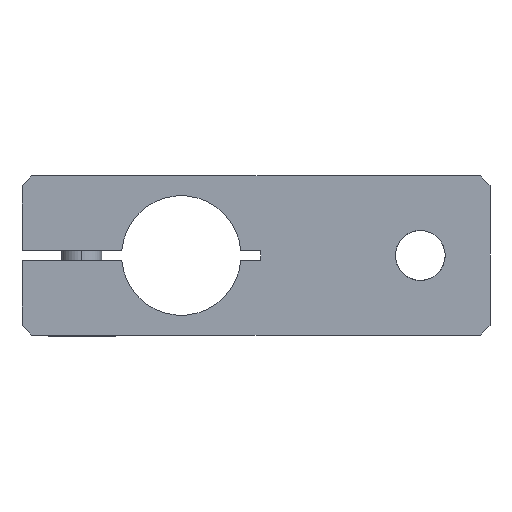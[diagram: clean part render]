
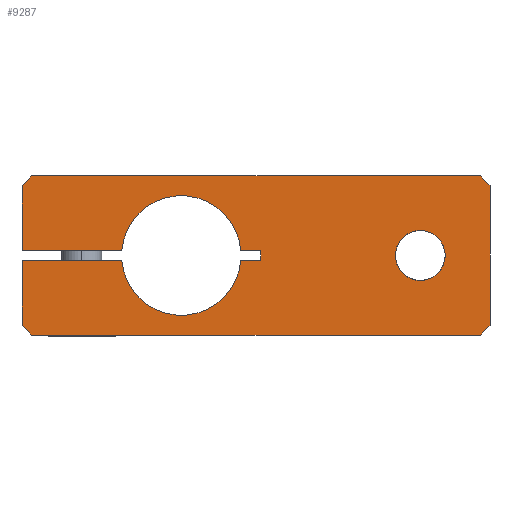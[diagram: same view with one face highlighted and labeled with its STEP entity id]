
A CAD part, front view. The second image highlights one B-rep face of the part: STEP entity #9287.
In plain terms, the highlighted planar face has unit normal (0, -1, 0).
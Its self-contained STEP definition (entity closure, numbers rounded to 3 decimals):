
#37 = EDGE_CURVE ( 'NONE', #3483, #9899, #8208, .T. ) ;
#92 = CARTESIAN_POINT ( 'NONE',  ( 72.397, 18.696, -7. ) ) ;
#147 = ORIENTED_EDGE ( 'NONE', *, *, #11193, .F. ) ;
#158 = CARTESIAN_POINT ( 'NONE',  ( 71.897, 18.696, 7.5 ) ) ;
#205 = VERTEX_POINT ( 'NONE', #10195 ) ;
#245 = ORIENTED_EDGE ( 'NONE', *, *, #8291, .F. ) ;
#268 = ORIENTED_EDGE ( 'NONE', *, *, #3472, .F. ) ;
#359 = VERTEX_POINT ( 'NONE', #3320 ) ;
#468 = PLANE ( 'NONE',  #877 ) ;
#500 = LINE ( 'NONE', #6346, #2667 ) ;
#740 = DIRECTION ( 'NONE',  ( 1., 0., 0. ) ) ;
#805 = EDGE_CURVE ( 'NONE', #5980, #11781, #6016, .T. ) ;
#858 = DIRECTION ( 'NONE',  ( 0., 0., 1. ) ) ;
#873 = ORIENTED_EDGE ( 'NONE', *, *, #1400, .T. ) ;
#877 = AXIS2_PLACEMENT_3D ( 'NONE', #4408, #5345, #1699 ) ;
#1197 = AXIS2_PLACEMENT_3D ( 'NONE', #4203, #5947, #1323 ) ;
#1323 = DIRECTION ( 'NONE',  ( 1., 0., 0. ) ) ;
#1396 = CARTESIAN_POINT ( 'NONE',  ( 49.397, 18.696, -0.5 ) ) ;
#1400 = EDGE_CURVE ( 'NONE', #11973, #9002, #2695, .T. ) ;
#1520 = CARTESIAN_POINT ( 'NONE',  ( 49.397, 18.696, 0. ) ) ;
#1584 = EDGE_CURVE ( 'NONE', #3721, #7901, #8348, .T. ) ;
#1591 = ORIENTED_EDGE ( 'NONE', *, *, #4762, .T. ) ;
#1596 = DIRECTION ( 'NONE',  ( 0., 0., -1. ) ) ;
#1599 = LINE ( 'NONE', #5768, #6237 ) ;
#1699 = DIRECTION ( 'NONE',  ( 0., 0., 1. ) ) ;
#1814 = VECTOR ( 'NONE', #11033, 1000. ) ;
#1888 = DIRECTION ( 'NONE',  ( -0.707, 0., -0.707 ) ) ;
#1899 = AXIS2_PLACEMENT_3D ( 'NONE', #2369, #5994, #10653 ) ;
#2338 = VERTEX_POINT ( 'NONE', #8908 ) ;
#2369 = CARTESIAN_POINT ( 'NONE',  ( 65.397, 18.696, 0. ) ) ;
#2498 = VECTOR ( 'NONE', #11257, 1000. ) ;
#2505 = ORIENTED_EDGE ( 'NONE', *, *, #37, .F. ) ;
#2527 = VECTOR ( 'NONE', #2752, 1000. ) ;
#2537 = CARTESIAN_POINT ( 'NONE',  ( 47.376, 18.696, 0.5 ) ) ;
#2667 = VECTOR ( 'NONE', #10827, 1000. ) ;
#2695 = LINE ( 'NONE', #11270, #7501 ) ;
#2752 = DIRECTION ( 'NONE',  ( 0., 0., -1. ) ) ;
#2840 = DIRECTION ( 'NONE',  ( 0.707, 0., 0.707 ) ) ;
#2920 = VERTEX_POINT ( 'NONE', #11590 ) ;
#2981 = VECTOR ( 'NONE', #1596, 1000. ) ;
#3064 = VECTOR ( 'NONE', #5455, 1000. ) ;
#3094 = CARTESIAN_POINT ( 'NONE',  ( 35.418, 18.696, 0.5 ) ) ;
#3213 = ORIENTED_EDGE ( 'NONE', *, *, #5902, .T. ) ;
#3241 = DIRECTION ( 'NONE',  ( -1., 0., 0. ) ) ;
#3320 = CARTESIAN_POINT ( 'NONE',  ( 47.376, 18.696, -0.5 ) ) ;
#3472 = EDGE_CURVE ( 'NONE', #11781, #5980, #6281, .T. ) ;
#3476 = CARTESIAN_POINT ( 'NONE',  ( 26.397, 18.696, 8. ) ) ;
#3483 = VERTEX_POINT ( 'NONE', #6737 ) ;
#3529 = CARTESIAN_POINT ( 'NONE',  ( 48.897, 18.696, -8. ) ) ;
#3564 = VECTOR ( 'NONE', #5195, 1000. ) ;
#3631 = VERTEX_POINT ( 'NONE', #8080 ) ;
#3721 = VERTEX_POINT ( 'NONE', #5378 ) ;
#3854 = CARTESIAN_POINT ( 'NONE',  ( 25.397, 18.696, 0.5 ) ) ;
#3992 = LINE ( 'NONE', #158, #1814 ) ;
#4184 = EDGE_CURVE ( 'NONE', #6141, #3631, #4503, .T. ) ;
#4203 = CARTESIAN_POINT ( 'NONE',  ( 41.397, 18.696, 0. ) ) ;
#4262 = DIRECTION ( 'NONE',  ( 0., -1., 0. ) ) ;
#4408 = CARTESIAN_POINT ( 'NONE',  ( 25.397, 18.696, -8. ) ) ;
#4503 = LINE ( 'NONE', #5680, #7403 ) ;
#4578 = CARTESIAN_POINT ( 'NONE',  ( 67.897, 18.696, 0. ) ) ;
#4762 = EDGE_CURVE ( 'NONE', #2338, #3631, #3992, .T. ) ;
#5000 = LINE ( 'NONE', #5462, #2527 ) ;
#5015 = CARTESIAN_POINT ( 'NONE',  ( 71.397, 18.696, -8. ) ) ;
#5042 = ORIENTED_EDGE ( 'NONE', *, *, #805, .F. ) ;
#5195 = DIRECTION ( 'NONE',  ( 0., 0., 1. ) ) ;
#5337 = VERTEX_POINT ( 'NONE', #3094 ) ;
#5345 = DIRECTION ( 'NONE',  ( 0., 1., 0. ) ) ;
#5378 = CARTESIAN_POINT ( 'NONE',  ( 25.397, 18.696, -7. ) ) ;
#5455 = DIRECTION ( 'NONE',  ( -1., 0., 0. ) ) ;
#5462 = CARTESIAN_POINT ( 'NONE',  ( 72.397, 18.696, 0. ) ) ;
#5548 = DIRECTION ( 'NONE',  ( -1., 0., 0. ) ) ;
#5574 = ORIENTED_EDGE ( 'NONE', *, *, #9697, .T. ) ;
#5680 = CARTESIAN_POINT ( 'NONE',  ( 48.897, 18.696, 8. ) ) ;
#5682 = AXIS2_PLACEMENT_3D ( 'NONE', #7185, #8871, #740 ) ;
#5744 = VECTOR ( 'NONE', #858, 1000. ) ;
#5768 = CARTESIAN_POINT ( 'NONE',  ( 25.897, 18.696, -7.5 ) ) ;
#5776 = EDGE_CURVE ( 'NONE', #11973, #2920, #8000, .T. ) ;
#5800 = VECTOR ( 'NONE', #6965, 1000. ) ;
#5902 = EDGE_CURVE ( 'NONE', #6141, #205, #11467, .T. ) ;
#5947 = DIRECTION ( 'NONE',  ( 0., -1., 0. ) ) ;
#5980 = VERTEX_POINT ( 'NONE', #6017 ) ;
#5991 = VERTEX_POINT ( 'NONE', #1396 ) ;
#5994 = DIRECTION ( 'NONE',  ( 0., -1., 0. ) ) ;
#6006 = CARTESIAN_POINT ( 'NONE',  ( 25.397, 18.696, 0. ) ) ;
#6016 = CIRCLE ( 'NONE', #8370, 2.5 ) ;
#6017 = CARTESIAN_POINT ( 'NONE',  ( 62.897, 18.696, 0. ) ) ;
#6141 = VERTEX_POINT ( 'NONE', #3476 ) ;
#6237 = VECTOR ( 'NONE', #7823, 1000. ) ;
#6281 = CIRCLE ( 'NONE', #1899, 2.5 ) ;
#6341 = ORIENTED_EDGE ( 'NONE', *, *, #6567, .F. ) ;
#6346 = CARTESIAN_POINT ( 'NONE',  ( 48.897, 18.696, -0.5 ) ) ;
#6567 = EDGE_CURVE ( 'NONE', #8423, #359, #10628, .T. ) ;
#6618 = DIRECTION ( 'NONE',  ( 1., 0., 0. ) ) ;
#6737 = CARTESIAN_POINT ( 'NONE',  ( 49.397, 18.696, 0.5 ) ) ;
#6833 = ORIENTED_EDGE ( 'NONE', *, *, #9813, .F. ) ;
#6965 = DIRECTION ( 'NONE',  ( -1., 0., 0. ) ) ;
#7185 = CARTESIAN_POINT ( 'NONE',  ( 41.397, 18.696, 0. ) ) ;
#7403 = VECTOR ( 'NONE', #6618, 1000. ) ;
#7480 = CARTESIAN_POINT ( 'NONE',  ( 25.897, 18.696, 7.5 ) ) ;
#7501 = VECTOR ( 'NONE', #2840, 1000. ) ;
#7823 = DIRECTION ( 'NONE',  ( 0.707, 0., -0.707 ) ) ;
#7888 = EDGE_LOOP ( 'NONE', ( #5574, #9744, #873, #8882, #1591, #10863, #3213, #245, #6833, #10745, #2505, #8253, #147, #6341, #9611, #10964 ) ) ;
#7901 = VERTEX_POINT ( 'NONE', #11449 ) ;
#8000 = LINE ( 'NONE', #3529, #3064 ) ;
#8080 = CARTESIAN_POINT ( 'NONE',  ( 71.397, 18.696, 8. ) ) ;
#8135 = EDGE_CURVE ( 'NONE', #3483, #5991, #8341, .T. ) ;
#8169 = EDGE_CURVE ( 'NONE', #9899, #5337, #8643, .T. ) ;
#8208 = LINE ( 'NONE', #9174, #8438 ) ;
#8253 = ORIENTED_EDGE ( 'NONE', *, *, #8135, .T. ) ;
#8291 = EDGE_CURVE ( 'NONE', #9462, #205, #10358, .T. ) ;
#8341 = LINE ( 'NONE', #1520, #2981 ) ;
#8348 = LINE ( 'NONE', #6006, #3564 ) ;
#8353 = EDGE_CURVE ( 'NONE', #2338, #9002, #5000, .T. ) ;
#8370 = AXIS2_PLACEMENT_3D ( 'NONE', #9811, #4262, #3241 ) ;
#8423 = VERTEX_POINT ( 'NONE', #11308 ) ;
#8438 = VECTOR ( 'NONE', #5548, 1000. ) ;
#8562 = LINE ( 'NONE', #11589, #5800 ) ;
#8643 = CIRCLE ( 'NONE', #5682, 6. ) ;
#8871 = DIRECTION ( 'NONE',  ( 0., -1., 0. ) ) ;
#8882 = ORIENTED_EDGE ( 'NONE', *, *, #8353, .F. ) ;
#8908 = CARTESIAN_POINT ( 'NONE',  ( 72.397, 18.696, 7. ) ) ;
#8966 = VECTOR ( 'NONE', #1888, 1000. ) ;
#8967 = FACE_OUTER_BOUND ( 'NONE', #7888, .T. ) ;
#9002 = VERTEX_POINT ( 'NONE', #92 ) ;
#9174 = CARTESIAN_POINT ( 'NONE',  ( 48.897, 18.696, 0.5 ) ) ;
#9287 = ADVANCED_FACE ( 'NONE', ( #10740, #8967 ), #468, .F. ) ;
#9421 = CARTESIAN_POINT ( 'NONE',  ( 48.897, 18.696, -0.5 ) ) ;
#9462 = VERTEX_POINT ( 'NONE', #3854 ) ;
#9611 = ORIENTED_EDGE ( 'NONE', *, *, #11815, .F. ) ;
#9697 = EDGE_CURVE ( 'NONE', #3721, #2920, #1599, .T. ) ;
#9744 = ORIENTED_EDGE ( 'NONE', *, *, #5776, .F. ) ;
#9811 = CARTESIAN_POINT ( 'NONE',  ( 65.397, 18.696, 0. ) ) ;
#9813 = EDGE_CURVE ( 'NONE', #5337, #9462, #8562, .T. ) ;
#9899 = VERTEX_POINT ( 'NONE', #2537 ) ;
#10098 = CARTESIAN_POINT ( 'NONE',  ( 25.397, 18.696, 0. ) ) ;
#10195 = CARTESIAN_POINT ( 'NONE',  ( 25.397, 18.696, 7. ) ) ;
#10358 = LINE ( 'NONE', #10098, #5744 ) ;
#10627 = EDGE_LOOP ( 'NONE', ( #5042, #268 ) ) ;
#10628 = CIRCLE ( 'NONE', #1197, 6. ) ;
#10653 = DIRECTION ( 'NONE',  ( -1., 0., 0. ) ) ;
#10740 = FACE_BOUND ( 'NONE', #10627, .T. ) ;
#10745 = ORIENTED_EDGE ( 'NONE', *, *, #8169, .F. ) ;
#10827 = DIRECTION ( 'NONE',  ( 1., 0., 0. ) ) ;
#10863 = ORIENTED_EDGE ( 'NONE', *, *, #4184, .F. ) ;
#10964 = ORIENTED_EDGE ( 'NONE', *, *, #1584, .F. ) ;
#11033 = DIRECTION ( 'NONE',  ( -0.707, 0., 0.707 ) ) ;
#11193 = EDGE_CURVE ( 'NONE', #359, #5991, #500, .T. ) ;
#11257 = DIRECTION ( 'NONE',  ( 1., 0., 0. ) ) ;
#11270 = CARTESIAN_POINT ( 'NONE',  ( 71.897, 18.696, -7.5 ) ) ;
#11308 = CARTESIAN_POINT ( 'NONE',  ( 35.418, 18.696, -0.5 ) ) ;
#11363 = LINE ( 'NONE', #9421, #2498 ) ;
#11449 = CARTESIAN_POINT ( 'NONE',  ( 25.397, 18.696, -0.5 ) ) ;
#11467 = LINE ( 'NONE', #7480, #8966 ) ;
#11589 = CARTESIAN_POINT ( 'NONE',  ( 48.897, 18.696, 0.5 ) ) ;
#11590 = CARTESIAN_POINT ( 'NONE',  ( 26.397, 18.696, -8. ) ) ;
#11781 = VERTEX_POINT ( 'NONE', #4578 ) ;
#11815 = EDGE_CURVE ( 'NONE', #7901, #8423, #11363, .T. ) ;
#11973 = VERTEX_POINT ( 'NONE', #5015 ) ;
